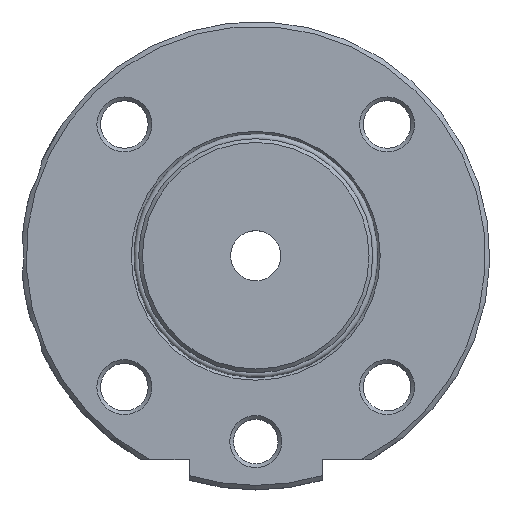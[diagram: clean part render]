
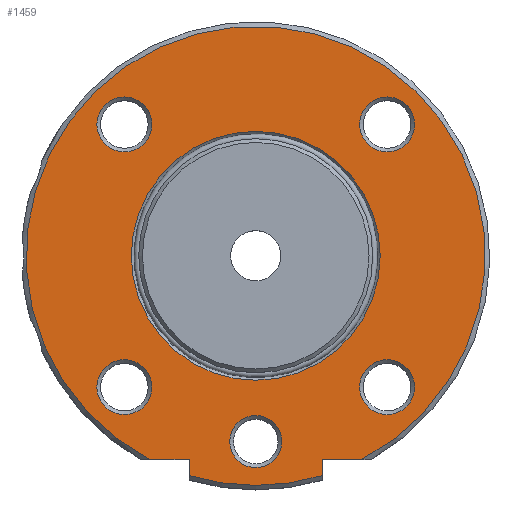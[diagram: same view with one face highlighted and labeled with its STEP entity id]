
A CAD part, top view. The second image highlights one B-rep face of the part: STEP entity #1459.
In plain terms, the highlighted planar face has unit normal (0, 0, 1).
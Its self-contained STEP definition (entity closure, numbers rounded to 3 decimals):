
#72=FACE_BOUND('',#251,.T.);
#73=FACE_BOUND('',#252,.T.);
#74=FACE_BOUND('',#253,.T.);
#75=FACE_BOUND('',#254,.T.);
#76=FACE_BOUND('',#255,.T.);
#77=FACE_BOUND('',#256,.T.);
#96=PLANE('',#1597);
#162=FACE_OUTER_BOUND('',#250,.T.);
#250=EDGE_LOOP('',(#1006,#1007,#1008,#1009,#1010,#1011));
#251=EDGE_LOOP('',(#1012));
#252=EDGE_LOOP('',(#1013));
#253=EDGE_LOOP('',(#1014));
#254=EDGE_LOOP('',(#1015));
#255=EDGE_LOOP('',(#1016));
#256=EDGE_LOOP('',(#1017));
#343=LINE('',#2456,#409);
#344=LINE('',#2458,#410);
#345=LINE('',#2460,#411);
#346=LINE('',#2463,#412);
#409=VECTOR('',#1862,10.);
#410=VECTOR('',#1863,10.);
#411=VECTOR('',#1864,10.);
#412=VECTOR('',#1867,10.);
#487=CIRCLE('',#1586,30.9);
#493=CIRCLE('',#1596,16.75);
#494=CIRCLE('',#1598,30.9);
#495=CIRCLE('',#1599,3.7);
#496=CIRCLE('',#1600,3.5);
#497=CIRCLE('',#1601,3.7);
#498=CIRCLE('',#1602,3.7);
#499=CIRCLE('',#1603,3.7);
#592=VERTEX_POINT('',#2426);
#593=VERTEX_POINT('',#2430);
#599=VERTEX_POINT('',#2451);
#600=VERTEX_POINT('',#2455);
#601=VERTEX_POINT('',#2457);
#602=VERTEX_POINT('',#2459);
#603=VERTEX_POINT('',#2461);
#604=VERTEX_POINT('',#2464);
#605=VERTEX_POINT('',#2466);
#606=VERTEX_POINT('',#2468);
#607=VERTEX_POINT('',#2470);
#608=VERTEX_POINT('',#2472);
#742=EDGE_CURVE('',#592,#593,#487,.T.);
#751=EDGE_CURVE('',#599,#599,#493,.T.);
#753=EDGE_CURVE('',#600,#593,#343,.T.);
#754=EDGE_CURVE('',#592,#601,#344,.T.);
#755=EDGE_CURVE('',#601,#602,#345,.T.);
#756=EDGE_CURVE('',#603,#602,#494,.T.);
#757=EDGE_CURVE('',#603,#600,#346,.T.);
#758=EDGE_CURVE('',#604,#604,#495,.T.);
#759=EDGE_CURVE('',#605,#605,#496,.T.);
#760=EDGE_CURVE('',#606,#606,#497,.T.);
#761=EDGE_CURVE('',#607,#607,#498,.T.);
#762=EDGE_CURVE('',#608,#608,#499,.T.);
#1006=ORIENTED_EDGE('',*,*,#753,.T.);
#1007=ORIENTED_EDGE('',*,*,#742,.F.);
#1008=ORIENTED_EDGE('',*,*,#754,.T.);
#1009=ORIENTED_EDGE('',*,*,#755,.T.);
#1010=ORIENTED_EDGE('',*,*,#756,.F.);
#1011=ORIENTED_EDGE('',*,*,#757,.T.);
#1012=ORIENTED_EDGE('',*,*,#758,.F.);
#1013=ORIENTED_EDGE('',*,*,#759,.F.);
#1014=ORIENTED_EDGE('',*,*,#760,.F.);
#1015=ORIENTED_EDGE('',*,*,#761,.F.);
#1016=ORIENTED_EDGE('',*,*,#762,.F.);
#1017=ORIENTED_EDGE('',*,*,#751,.F.);
#1459=ADVANCED_FACE('',(#162,#72,#73,#74,#75,#76,#77),#96,.T.);
#1586=AXIS2_PLACEMENT_3D('',#2431,#1835,#1836);
#1596=AXIS2_PLACEMENT_3D('',#2452,#1857,#1858);
#1597=AXIS2_PLACEMENT_3D('',#2454,#1860,#1861);
#1598=AXIS2_PLACEMENT_3D('',#2462,#1865,#1866);
#1599=AXIS2_PLACEMENT_3D('',#2465,#1868,#1869);
#1600=AXIS2_PLACEMENT_3D('',#2467,#1870,#1871);
#1601=AXIS2_PLACEMENT_3D('',#2469,#1872,#1873);
#1602=AXIS2_PLACEMENT_3D('',#2471,#1874,#1875);
#1603=AXIS2_PLACEMENT_3D('',#2473,#1876,#1877);
#1835=DIRECTION('center_axis',(0.,0.,
-1.));
#1836=DIRECTION('ref_axis',(-1.,0.,0.));
#1857=DIRECTION('center_axis',(0.,0.,
1.));
#1858=DIRECTION('ref_axis',(-1.,0.,0.));
#1860=DIRECTION('center_axis',(0.,0.,
1.));
#1861=DIRECTION('ref_axis',(1.,0.,0.));
#1862=DIRECTION('',(1.,0.,0.));
#1863=DIRECTION('',(1.,0.,0.));
#1864=DIRECTION('',(0.,-1.,0.));
#1865=DIRECTION('center_axis',(0.,0.,
-1.));
#1866=DIRECTION('ref_axis',(-1.,0.,0.));
#1867=DIRECTION('',(0.,1.,0.));
#1868=DIRECTION('center_axis',(0.,0.,
1.));
#1869=DIRECTION('ref_axis',(-1.,0.,0.));
#1870=DIRECTION('center_axis',(0.,0.,
1.));
#1871=DIRECTION('ref_axis',(-1.,0.,0.));
#1872=DIRECTION('center_axis',(0.,0.,
1.));
#1873=DIRECTION('ref_axis',(-1.,0.,0.));
#1874=DIRECTION('center_axis',(0.,0.,
1.));
#1875=DIRECTION('ref_axis',(-1.,0.,0.));
#1876=DIRECTION('center_axis',(0.,0.,
1.));
#1877=DIRECTION('ref_axis',(-1.,0.,0.));
#2426=CARTESIAN_POINT('',(-8.623,-26.961,23.25));
#2430=CARTESIAN_POINT('',(19.947,-26.961,23.25));
#2431=CARTESIAN_POINT('Origin',(5.662,0.439,23.25));
#2451=CARTESIAN_POINT('',(22.412,0.439,23.25));
#2452=CARTESIAN_POINT('Origin',(5.662,0.439,23.25));
#2454=CARTESIAN_POINT('Origin',(5.662,0.439,23.25));
#2455=CARTESIAN_POINT('',(14.612,-26.961,23.25));
#2456=CARTESIAN_POINT('',(13.432,-26.961,23.25));
#2457=CARTESIAN_POINT('',(-3.288,-26.961,23.25));
#2458=CARTESIAN_POINT('',(1.187,-26.961,23.25));
#2459=CARTESIAN_POINT('',(-3.288,-29.136,23.25));
#2460=CARTESIAN_POINT('',(-3.288,-14.662,23.25));
#2461=CARTESIAN_POINT('',(14.612,-29.136,23.25));
#2462=CARTESIAN_POINT('Origin',(5.662,0.439,23.25));
#2463=CARTESIAN_POINT('',(14.612,-13.261,23.25));
#2464=CARTESIAN_POINT('',(27.04,18.117,23.25));
#2465=CARTESIAN_POINT('Origin',(23.34,18.117,23.25));
#2466=CARTESIAN_POINT('',(9.162,-24.561,23.25));
#2467=CARTESIAN_POINT('Origin',(5.662,-24.561,23.25));
#2468=CARTESIAN_POINT('',(-8.316,18.117,23.25));
#2469=CARTESIAN_POINT('Origin',(-12.016,18.117,23.25));
#2470=CARTESIAN_POINT('',(-8.316,-17.239,23.25));
#2471=CARTESIAN_POINT('Origin',(-12.016,-17.239,23.25));
#2472=CARTESIAN_POINT('',(27.04,-17.239,23.25));
#2473=CARTESIAN_POINT('Origin',(23.34,-17.239,23.25));
